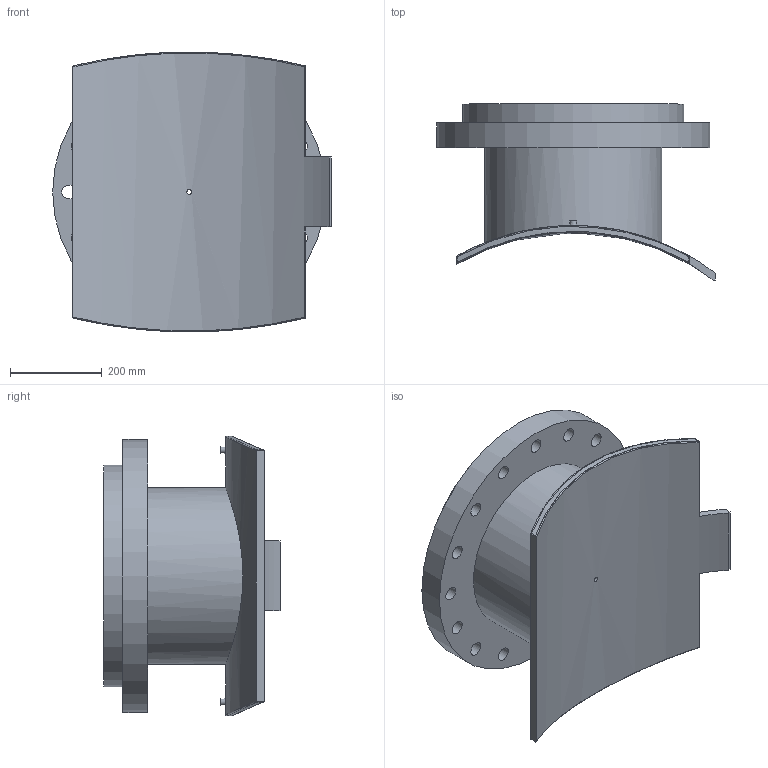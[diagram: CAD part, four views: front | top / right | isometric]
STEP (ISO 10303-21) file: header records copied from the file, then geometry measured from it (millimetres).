
FILE_DESCRIPTION(/* description */ ('PLASSON FLANGED BRANCH SADDLE 1000X400'),/* implementation_level */ '2;1');
FILE_NAME(/* name */ 'C:\Dropbox\KIMPROJECTS-Inventor 2019\99-16-3568-Processing\ElectroFusion Fittings\495904_495903\stp\4959031000400T.stp',/* time_stamp */ '2024-04-03T21:08:23+02:00',/* author */ ('KIM'),/* organization */ (''),/* preprocessor_version */ 'ST-DEVELOPER v17.2',/* originating_system */ 'Autodesk Inventor 2019',/* authorisation */ '');
FILE_SCHEMA (('AUTOMOTIVE_DESIGN { 1 0 10303 214 3 1 1 }'));
Length unit declared in the file: millimetre
Products named in the file (1): 4959031000400T
Bounding box: 607.15 x 383.49 x 609.56 mm (x, y, z)
Volume: 24863966.5 mm3; surface area: 1755343.6 mm2
Topology: 1 solids, 1 shells, 66 faces, 175 edges, 134 vertices
Faces by surface type: cylinder 39, plane 17, sphere 4, bspline 4, cone 2
Full cylindrical faces by diameter (mm): 4 x2, 10 x2, 10.4 x1, 16 x1, 30 x16, 327 x1, 385.6 x1, 482 x1, 595 x1
Entity records: 2773 total; most frequent: CARTESIAN_POINT 1013, DIRECTION 353, ORIENTED_EDGE 322, EDGE_CURVE 161, AXIS2_PLACEMENT_3D 149, EDGE_LOOP 111, VERTEX_POINT 108, CIRCLE 86
